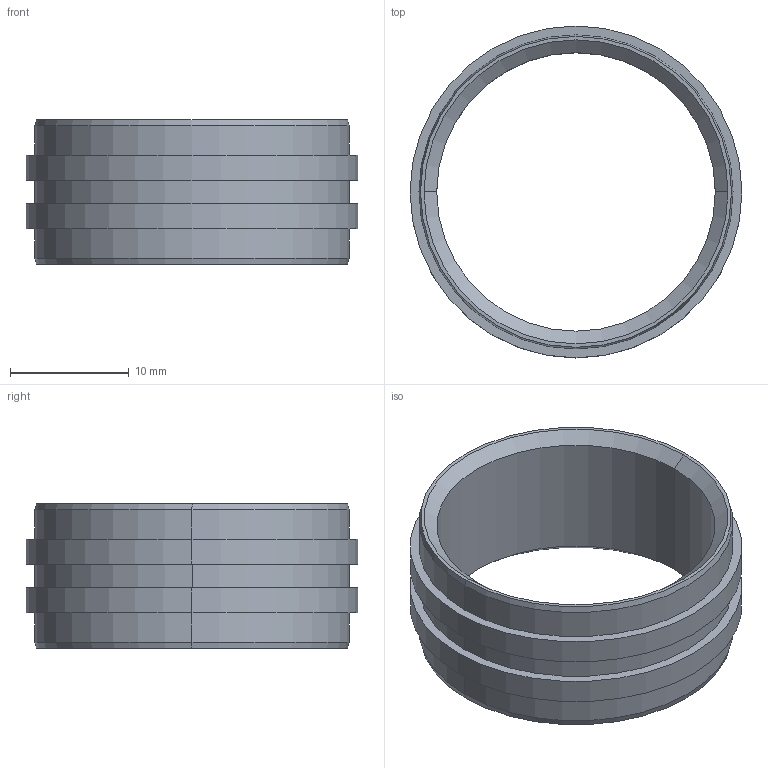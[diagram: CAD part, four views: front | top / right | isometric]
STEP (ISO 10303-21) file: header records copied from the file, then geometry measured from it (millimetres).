
FILE_DESCRIPTION (( 'STEP AP214' ), '1' );
FILE_NAME ('ZAS-179023 Intrasystemadapter für Demo-Video_180327.STEP', '2018-03-27T11:06:23', ( '' ), ( '' ), 'SwSTEP 2.0', 'SolidWorks 2018', '' );
FILE_SCHEMA (( 'AUTOMOTIVE_DESIGN' ));
Length unit declared in the file: millimetre
Products named in the file (1): ZAS-179023 Intrasystemadapter für Demo-Video_180327
Bounding box: 28 x 28 x 12.2 mm (x, y, z)
Volume: 1628 mm3; surface area: 2326.6 mm2
Topology: 1 solids, 1 shells, 26 faces, 52 edges, 32 vertices
Faces by surface type: cylinder 12, cone 8, plane 6
Entity records: 788 total; most frequent: DIRECTION 138, CARTESIAN_POINT 111, ORIENTED_EDGE 104, AXIS2_PLACEMENT_3D 59, EDGE_CURVE 52, EDGE_LOOP 32, VERTEX_POINT 32, CIRCLE 32
